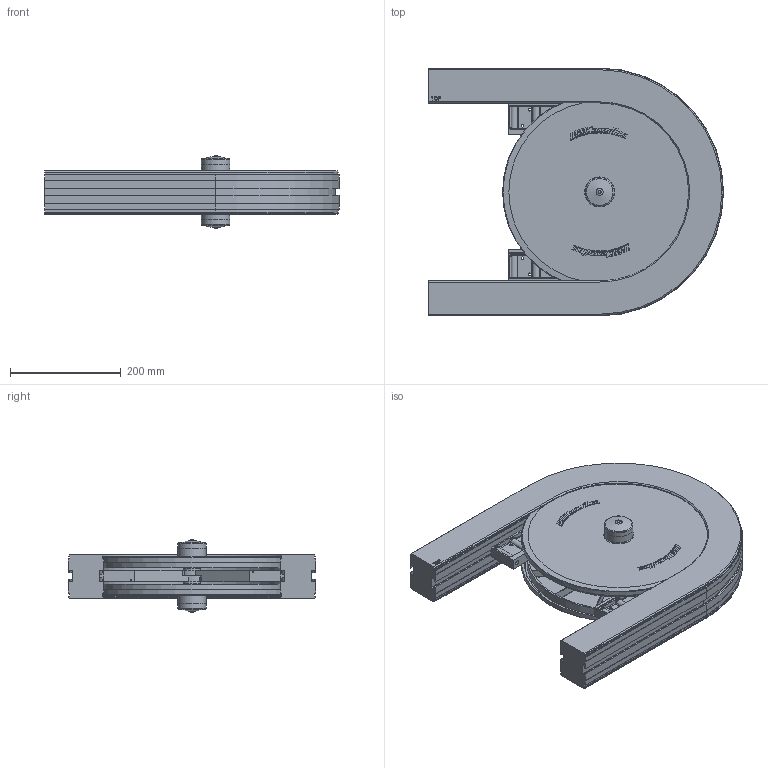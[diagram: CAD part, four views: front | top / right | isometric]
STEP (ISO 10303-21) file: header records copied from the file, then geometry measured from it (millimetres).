
FILE_DESCRIPTION((''),'2;1');
FILE_NAME('C:\Vault Klient\Projekt\Koncept konstruktion\Serie 620 Hjulkurva\620-5050.stp','2010-11-12T12:37:09',('Mathias'),(''),'Autodesk Inventor 2011','Autodesk Inventor 2011','');
FILE_SCHEMA(('AUTOMOTIVE_DESIGN { 1 0 10303 214 1 1 1 1 }'));
Length unit declared in the file: millimetre
Products named in the file (5): 620-5050; 620-1000_06; 830-5056; 830-5057; FCWA-0476-025
Assembly tree (7 placements, depth 2):
  620-5050
    620-1000_06
    830-5056  x2
    830-5057  x2
    FCWA-0476-025  x2
Bounding box: 532 x 447 x 131.93 mm (x, y, z)
Volume: 7100319.7 mm3; surface area: 1156511.6 mm2
Topology: 7 solids, 7 shells, 1539 faces, 3850 edges, 2386 vertices
Faces by surface type: plane 831, bspline 278, cylinder 252, torus 82, cone 72, sphere 24
Full cylindrical faces by diameter (mm): 5 x6, 6 x16, 8.2 x4, 8.5 x4, 17 x2, 29.5 x2, 30 x2, 40 x4, 47.6 x2, 50.3 x2, 51.3 x2, 350 x2
Entity records: 29906 total; most frequent: CARTESIAN_POINT 9974, ORIENTED_EDGE 4136, DIRECTION 3836, EDGE_CURVE 2068, VERTEX_POINT 1326, VECTOR 1280, LINE 1280, AXIS2_PLACEMENT_3D 1278
